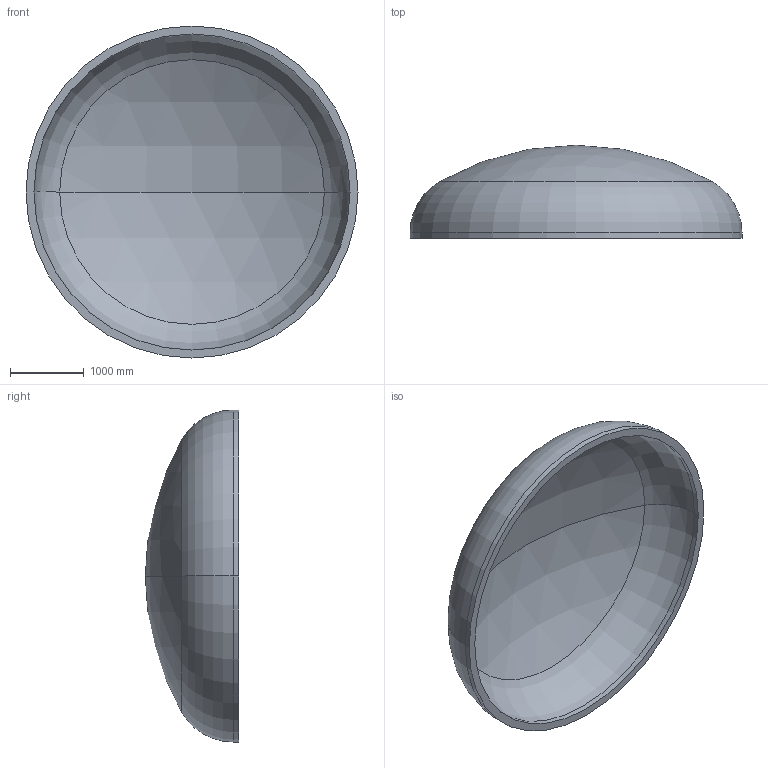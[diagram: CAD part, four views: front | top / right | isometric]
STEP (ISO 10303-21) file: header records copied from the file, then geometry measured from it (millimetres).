
FILE_DESCRIPTION (( 'STEP AP203' ), '1' );
FILE_NAME ('DIN 28013 Korbbogenform_-_Boden DIN 28013 - 4500 x 75 - I - s=108.step', '2016-07-01T23:54:25', ( '' ), ( '' ), 'SwSTEP 2.0', 'SolidWorks 2013', '' );
FILE_SCHEMA (( 'CONFIG_CONTROL_DESIGN' ));
Length unit declared in the file: millimetre
Products named in the file (1): DIN 28013 Korbbogenform_-_Boden DIN 28013 - 4500 x 75 - I - s=108
Bounding box: 4500 x 1264.03 x 4500 mm (x, y, z)
Volume: 2418256208 mm3; surface area: 46297106 mm2
Topology: 1 solids, 1 shells, 13 faces, 24 edges, 14 vertices
Faces by surface type: torus 4, cylinder 4, sphere 4, plane 1
Entity records: 407 total; most frequent: DIRECTION 72, CARTESIAN_POINT 52, ORIENTED_EDGE 48, AXIS2_PLACEMENT_3D 34, EDGE_CURVE 24, CIRCLE 20, VERTEX_POINT 14, EDGE_LOOP 14
